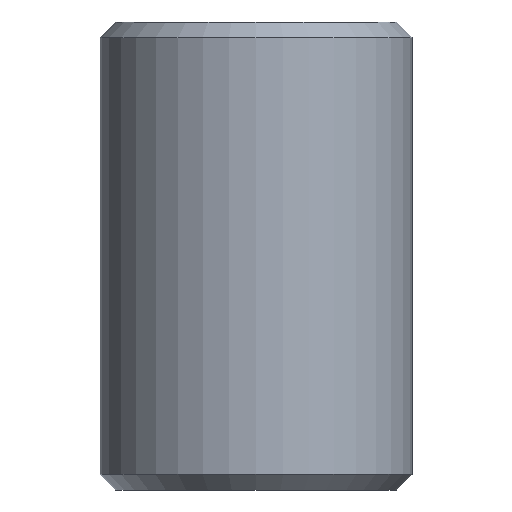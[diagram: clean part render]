
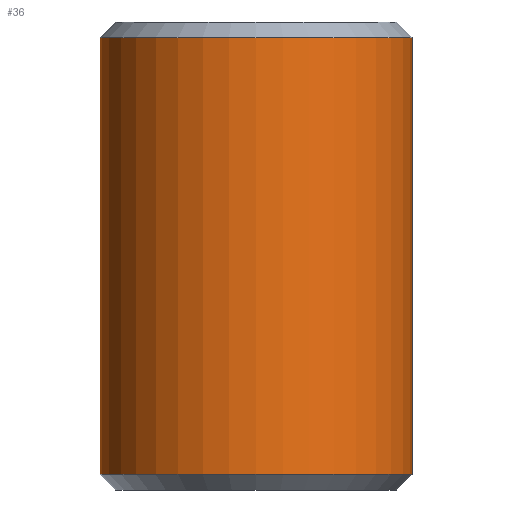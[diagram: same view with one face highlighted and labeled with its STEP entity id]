
A CAD part, front view. The second image highlights one B-rep face of the part: STEP entity #36.
In plain terms, the highlighted cylindrical face has radius 10 mm (diameter 20 mm), a full revolution.
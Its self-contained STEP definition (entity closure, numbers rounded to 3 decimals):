
#36 = ADVANCED_FACE( '', ( #73, #74 ), #75, .T. );
#73 = FACE_OUTER_BOUND( '', #112, .T. );
#74 = FACE_OUTER_BOUND( '', #113, .T. );
#75 = CYLINDRICAL_SURFACE( '', #114, 10. );
#112 = EDGE_LOOP( '', ( #149 ) );
#113 = EDGE_LOOP( '', ( #150 ) );
#114 = AXIS2_PLACEMENT_3D( '', #151, #152, #153 );
#149 = ORIENTED_EDGE( '', *, *, #185, .T. );
#150 = ORIENTED_EDGE( '', *, *, #191, .T. );
#151 = CARTESIAN_POINT( '', ( 0., 0., 30. ) );
#152 = DIRECTION( '', ( 0., 0., 1. ) );
#153 = DIRECTION( '', ( -1., 0., 0. ) );
#185 = EDGE_CURVE( '', #201, #201, #202, .F. );
#191 = EDGE_CURVE( '', #211, #211, #212, .T. );
#201 = VERTEX_POINT( '', #225 );
#202 = CIRCLE( '', #226, 10. );
#211 = VERTEX_POINT( '', #235 );
#212 = CIRCLE( '', #236, 10. );
#225 = CARTESIAN_POINT( '', ( -10., 0., 1. ) );
#226 = AXIS2_PLACEMENT_3D( '', #248, #249, #250 );
#235 = CARTESIAN_POINT( '', ( -10., 0., 29. ) );
#236 = AXIS2_PLACEMENT_3D( '', #260, #261, #262 );
#248 = CARTESIAN_POINT( '', ( 0., 0., 1. ) );
#249 = DIRECTION( '', ( 0., 0., -1. ) );
#250 = DIRECTION( '', ( -1., 0., 0. ) );
#260 = CARTESIAN_POINT( '', ( 0., 0., 29. ) );
#261 = DIRECTION( '', ( 0., 0., -1. ) );
#262 = DIRECTION( '', ( -1., 0., 0. ) );
